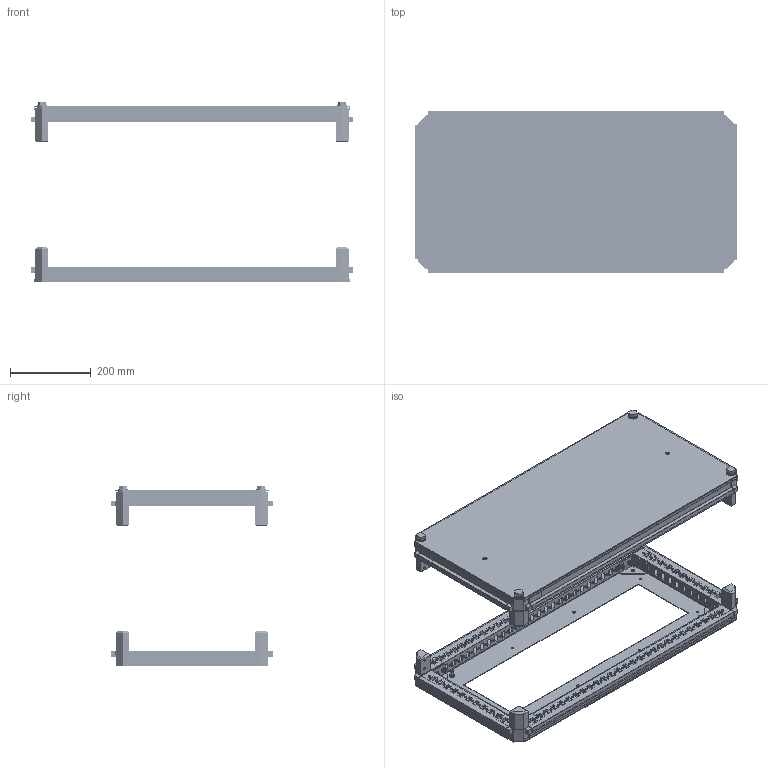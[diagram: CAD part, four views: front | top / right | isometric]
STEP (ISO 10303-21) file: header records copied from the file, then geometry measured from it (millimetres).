
FILE_DESCRIPTION (( 'STEP AP214' ), '1' );
FILE_NAME ('FO-00-KOF-040-080 Êðûøà è îñíîâàíèå (ïîä ôëàíåö) 400õ800 ìì.STEP', '2025-08-25T11:46:41', ( '' ), ( '' ), 'SwSTEP 2.0', 'SolidWorks 2023', '' );
FILE_SCHEMA (( 'AUTOMOTIVE_DESIGN' ));
Products named in the file (3): FO-00-KOF-040-080 Крыша и основание (под фланец) 400х800 мм; Крыша под фланец 400х800; Основание под фланец 400х800
Assembly tree (2 placements, depth 2):
  FO-00-KOF-040-080 Крыша и основание (под фланец) 400х800 мм
    Крыша под фланец 400х800
    Основание под фланец 400х800
Bounding box: 800.11 x 400.11 x 446.9 mm (x, y, z)
Volume: 3180437.3 mm3; surface area: 2236218.2 mm2
Topology: 2 solids, 64 shells, 4817 faces, 13357 edges, 8846 vertices
Faces by surface type: plane 2889, cylinder 1520, cone 216, bspline 192
Entity records: 161326 total; most frequent: CARTESIAN_POINT 35351, ORIENTED_EDGE 26698, DIRECTION 25053, EDGE_CURVE 13349, VERTEX_POINT 8846, LINE 8757, VECTOR 8757, AXIS2_PLACEMENT_3D 8148
